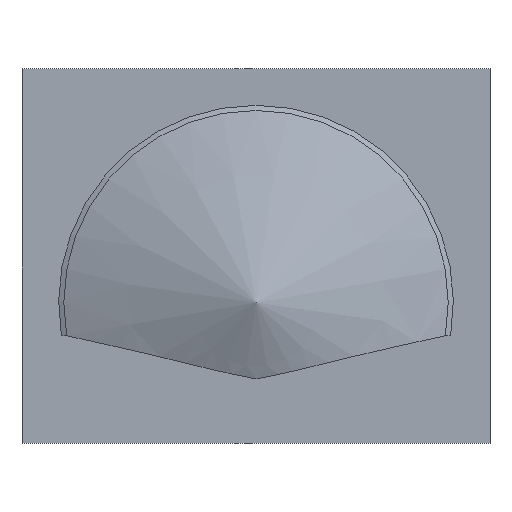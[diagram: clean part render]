
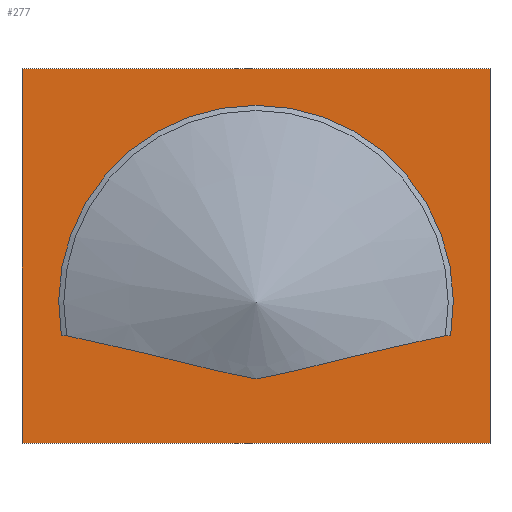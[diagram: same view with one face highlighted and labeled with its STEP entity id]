
A CAD part, top view. The second image highlights one B-rep face of the part: STEP entity #277.
In plain terms, the highlighted planar face has unit normal (0, 0, 1).
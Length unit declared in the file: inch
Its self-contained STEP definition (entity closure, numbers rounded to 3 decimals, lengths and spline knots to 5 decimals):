
#53=CARTESIAN_POINT('',(11.18956,-1.31515,9.75056));
#54=VERTEX_POINT('',#53);
#55=CARTESIAN_POINT('',(12.37066,-1.31515,9.75056));
#56=VERTEX_POINT('',#55);
#57=CARTESIAN_POINT('',(8.37079,-1.31515,9.75056));
#58=DIRECTION('',(1.0,-0.0,0.0));
#59=VECTOR('',#58,1.0);
#60=LINE('',#57,#59);
#61=EDGE_CURVE('',#54,#56,#60,.T.);
#178=CARTESIAN_POINT('',(11.18956,-0.3699,9.75056));
#179=VERTEX_POINT('',#178);
#180=CARTESIAN_POINT('',(11.18956,-1.31515,9.75056));
#181=DIRECTION('',(0.0,-1.0,0.0));
#182=VECTOR('',#181,0.07065);
#183=LINE('',#180,#182);
#184=EDGE_CURVE('',#179,#54,#183,.T.);
#201=ORIENTED_EDGE('',*,*,#61,.T.);
#202=CARTESIAN_POINT('',(12.37066,-0.3699,9.75056));
#203=VERTEX_POINT('',#202);
#204=CARTESIAN_POINT('',(12.37066,-1.37064,9.75056));
#205=DIRECTION('',(-0.0,-1.0,-0.0));
#206=VECTOR('',#205,1.87402);
#207=LINE('',#204,#206);
#208=EDGE_CURVE('',#203,#56,#207,.T.);
#209=ORIENTED_EDGE('',*,*,#208,.F.);
#210=CARTESIAN_POINT('',(12.37066,-0.3699,9.75056));
#211=DIRECTION('',(-1.0,0.0,0.0));
#212=VECTOR('',#211,1.1811);
#213=LINE('',#210,#212);
#214=EDGE_CURVE('',#203,#179,#213,.T.);
#215=ORIENTED_EDGE('',*,*,#214,.T.);
#216=ORIENTED_EDGE('',*,*,#184,.T.);
#217=EDGE_LOOP('',(#201,#209,#215,#216));
#218=FACE_OUTER_BOUND('',#217,.T.);
#219=CARTESIAN_POINT('',(12.25066,-1.04228,9.75056));
#220=VERTEX_POINT('',#219);
#221=CARTESIAN_POINT('',(11.78011,-1.13761,9.75056));
#222=VERTEX_POINT('',#221);
#223=CARTESIAN_POINT('',(12.25066,-1.04228,9.75056));
#224=DIRECTION('',(-0.98,-0.199,-0.0));
#225=VECTOR('',#224,0.48011);
#226=LINE('',#223,#225);
#227=EDGE_CURVE('',#220,#222,#226,.T.);
#228=ORIENTED_EDGE('',*,*,#227,.T.);
#229=CARTESIAN_POINT('',(11.30956,-1.04228,9.75056));
#230=VERTEX_POINT('',#229);
#231=CARTESIAN_POINT('',(11.78011,-1.13761,9.75056));
#232=DIRECTION('',(-0.98,0.199,-0.0));
#233=VECTOR('',#232,0.48011);
#234=LINE('',#231,#233);
#235=EDGE_CURVE('',#222,#230,#234,.T.);
#236=ORIENTED_EDGE('',*,*,#235,.T.);
#237=CARTESIAN_POINT('',(11.2886,-1.04094,9.75056));
#238=VERTEX_POINT('',#237);
#239=CARTESIAN_POINT('',(11.2886,-1.04094,9.75056));
#240=CARTESIAN_POINT('',(11.29159,-1.04086,9.75056));
#241=CARTESIAN_POINT('',(11.29676,-1.04076,9.75056));
#242=CARTESIAN_POINT('',(11.30179,-1.04098,9.75056));
#243=CARTESIAN_POINT('',(11.30481,-1.04111,9.75056));
#244=CARTESIAN_POINT('',(11.30895,-1.04215,9.75056));
#245=CARTESIAN_POINT('',(11.30956,-1.04228,9.75056));
#246=B_SPLINE_CURVE_WITH_KNOTS('',3,(#239,#240,#241,#242,#243,#244,#245),.UNSPECIFIED.,.F.,.F.,(4,1,1,1,4),(0.0,0.25,0.5,0.75,1.0),.UNSPECIFIED.);
#247=EDGE_CURVE('',#238,#230,#246,.T.);
#248=ORIENTED_EDGE('',*,*,#247,.F.);
#249=CARTESIAN_POINT('',(12.27163,-1.04094,9.75056));
#250=VERTEX_POINT('',#249);
#251=CARTESIAN_POINT('',(11.78011,-0.96045,9.75056));
#252=DIRECTION('',(0.0,0.0,-1.0));
#253=DIRECTION('',(-0.987,-0.162,0.0));
#254=AXIS2_PLACEMENT_3D('',#251,#252,#253);
#255=CIRCLE('',#254,0.49806);
#256=EDGE_CURVE('',#238,#250,#255,.T.);
#257=ORIENTED_EDGE('',*,*,#256,.T.);
#258=CARTESIAN_POINT('',(12.25066,-1.04228,9.75056));
#259=CARTESIAN_POINT('',(12.2513,-1.04215,9.75056));
#260=CARTESIAN_POINT('',(12.25374,-1.0416,9.75056));
#261=CARTESIAN_POINT('',(12.25713,-1.04098,9.75056));
#262=CARTESIAN_POINT('',(12.25908,-1.04078,9.75056));
#263=CARTESIAN_POINT('',(12.2612,-1.04079,9.75056));
#264=CARTESIAN_POINT('',(12.26507,-1.0408,9.75056));
#265=CARTESIAN_POINT('',(12.26866,-1.04085,9.75056));
#266=CARTESIAN_POINT('',(12.27163,-1.04094,9.75056));
#267=B_SPLINE_CURVE_WITH_KNOTS('',3,(#258,#259,#260,#261,#262,#263,#264,#265,#266),.UNSPECIFIED.,.F.,.F.,(4,1,1,1,1,1,4),(0.0,0.25,0.33333,0.5,0.66667,0.75,1.0),.UNSPECIFIED.);
#268=EDGE_CURVE('',#220,#250,#267,.T.);
#269=ORIENTED_EDGE('',*,*,#268,.F.);
#270=EDGE_LOOP('',(#228,#236,#248,#257,#269));
#271=FACE_BOUND('',#270,.T.);
#272=CARTESIAN_POINT('',(11.78011,-1.27615,9.75056));
#273=DIRECTION('',(-0.0,-0.0,1.0));
#274=DIRECTION('',(1.0,-0.0,0.0));
#275=AXIS2_PLACEMENT_3D('',#272,#273,#274);
#276=PLANE('',#275);
#277=ADVANCED_FACE('',(#218,#271),#276,.T.);
